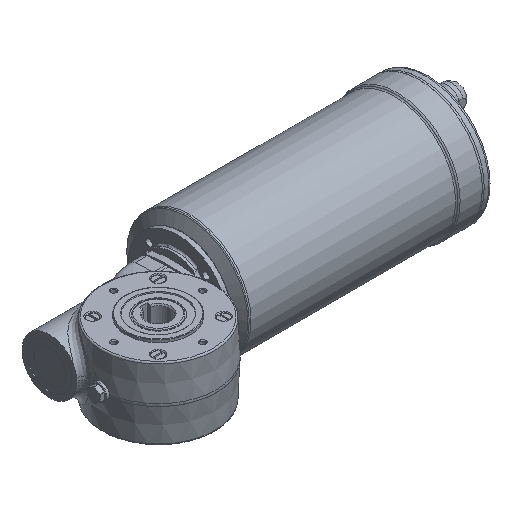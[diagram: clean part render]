
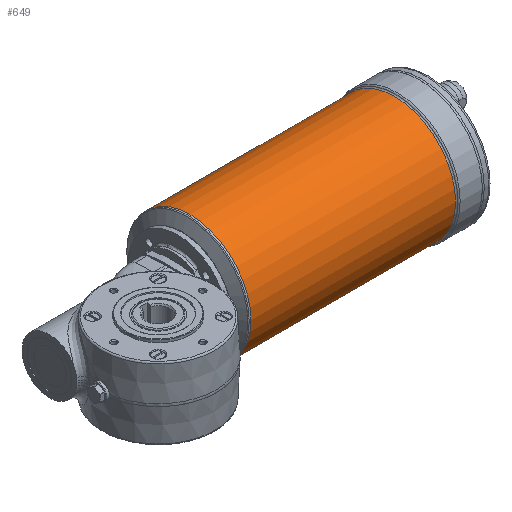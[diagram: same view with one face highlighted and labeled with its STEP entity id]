
A CAD part, isometric view. The second image highlights one B-rep face of the part: STEP entity #649.
In plain terms, the highlighted cylindrical face has radius 64.5 mm (diameter 129 mm), a full revolution.
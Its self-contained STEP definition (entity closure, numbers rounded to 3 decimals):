
#649 = ADVANCED_FACE( '', ( #1758, #1759 ), #1760, .T. );
#1758 = FACE_OUTER_BOUND( '', #3721, .T. );
#1759 = FACE_OUTER_BOUND( '', #3722, .T. );
#1760 = CYLINDRICAL_SURFACE( '', #3723, 64.5 );
#3721 = EDGE_LOOP( '', ( #8229 ) );
#3722 = EDGE_LOOP( '', ( #8230 ) );
#3723 = AXIS2_PLACEMENT_3D( '', #8231, #8232, #8233 );
#8229 = ORIENTED_EDGE( '', *, *, #11663, .T. );
#8230 = ORIENTED_EDGE( '', *, *, #11664, .T. );
#8231 = CARTESIAN_POINT( '', ( 243.668, 50., 0. ) );
#8232 = DIRECTION( '', ( -1., 0., 0. ) );
#8233 = DIRECTION( '', ( 0., 0., 1. ) );
#11663 = EDGE_CURVE( '', #13223, #13223, #13224, .F. );
#11664 = EDGE_CURVE( '', #13225, #13225, #13226, .T. );
#13223 = VERTEX_POINT( '', #15778 );
#13224 = CIRCLE( '', #15779, 64.5 );
#13225 = VERTEX_POINT( '', #15780 );
#13226 = CIRCLE( '', #15781, 64.5 );
#15778 = CARTESIAN_POINT( '', ( 299.672, 50., 64.5 ) );
#15779 = AXIS2_PLACEMENT_3D( '', #19448, #19449, #19450 );
#15780 = CARTESIAN_POINT( '', ( 83.5, 50., 64.5 ) );
#15781 = AXIS2_PLACEMENT_3D( '', #19451, #19452, #19453 );
#19448 = CARTESIAN_POINT( '', ( 299.672, 50., 0. ) );
#19449 = DIRECTION( '', ( 1., 0., 0. ) );
#19450 = DIRECTION( '', ( 0., 0., 1. ) );
#19451 = CARTESIAN_POINT( '', ( 83.5, 50., 0. ) );
#19452 = DIRECTION( '', ( 1., 0., 0. ) );
#19453 = DIRECTION( '', ( 0., 0., 1. ) );
